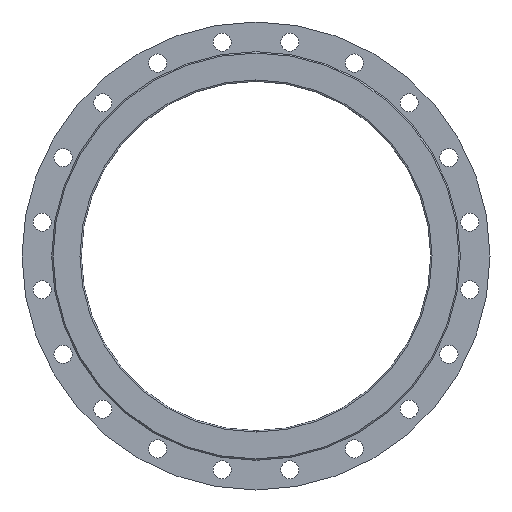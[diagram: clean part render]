
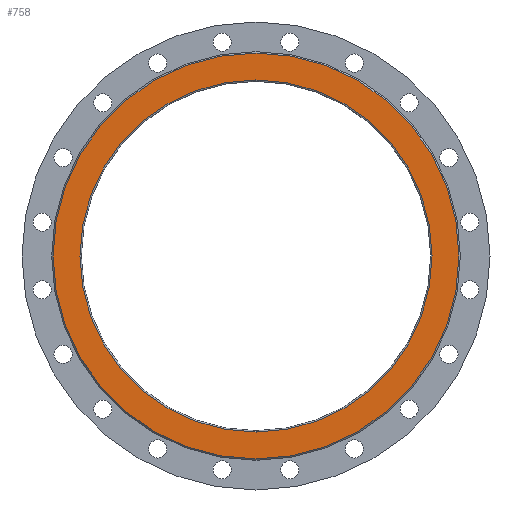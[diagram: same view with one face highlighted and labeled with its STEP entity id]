
A CAD part, left-side view. The second image highlights one B-rep face of the part: STEP entity #758.
In plain terms, the highlighted planar face has unit normal (-1, 0, 0).
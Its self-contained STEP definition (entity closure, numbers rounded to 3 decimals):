
#758 = ADVANCED_FACE ( 'NONE', ( #2093, #2061 ), #1949, .F. ) ;
#760 = EDGE_LOOP ( 'NONE', ( #764, #761 ) ) ;
#761 = ORIENTED_EDGE ( 'NONE', *, *, #1329, .T. ) ;
#764 = ORIENTED_EDGE ( 'NONE', *, *, #790, .T. ) ;
#769 = ORIENTED_EDGE ( 'NONE', *, *, #900, .T. ) ;
#777 = EDGE_LOOP ( 'NONE', ( #800, #769 ) ) ;
#790 = EDGE_CURVE ( 'NONE', #1428, #1459, #2079, .T. ) ;
#800 = ORIENTED_EDGE ( 'NONE', *, *, #1452, .T. ) ;
#900 = EDGE_CURVE ( 'NONE', #1243, #1385, #2240, .T. ) ;
#1243 = VERTEX_POINT ( 'NONE', #2732 ) ;
#1329 = EDGE_CURVE ( 'NONE', #1459, #1428, #2811, .T. ) ;
#1385 = VERTEX_POINT ( 'NONE', #2967 ) ;
#1428 = VERTEX_POINT ( 'NONE', #3078 ) ;
#1452 = EDGE_CURVE ( 'NONE', #1385, #1243, #3118, .T. ) ;
#1459 = VERTEX_POINT ( 'NONE', #3095 ) ;
#1949 = PLANE ( 'NONE',  #2062 ) ;
#2051 = DIRECTION ( 'NONE',  ( 0., 0., -1. ) ) ;
#2052 = DIRECTION ( 'NONE',  ( 1., 0., 0. ) ) ;
#2055 = CARTESIAN_POINT ( 'NONE',  ( -100., 292.5, 0. ) ) ;
#2061 = FACE_BOUND ( 'NONE', #777, .T. ) ;
#2062 = AXIS2_PLACEMENT_3D ( 'NONE', #2055, #2052, #2051 ) ;
#2076 = DIRECTION ( 'NONE',  ( 0., 0., -1. ) ) ;
#2077 = DIRECTION ( 'NONE',  ( -1., 0., 0. ) ) ;
#2078 = CARTESIAN_POINT ( 'NONE',  ( -100., 0., 0. ) ) ;
#2079 = CIRCLE ( 'NONE', #2098, 290.5 ) ;
#2093 = FACE_OUTER_BOUND ( 'NONE', #760, .T. ) ;
#2098 = AXIS2_PLACEMENT_3D ( 'NONE', #2078, #2077, #2076 ) ;
#2237 = DIRECTION ( 'NONE',  ( 0., 0., -1. ) ) ;
#2238 = DIRECTION ( 'NONE',  ( 1., 0., 0. ) ) ;
#2239 = CARTESIAN_POINT ( 'NONE',  ( -100., 0., 0. ) ) ;
#2240 = CIRCLE ( 'NONE', #2304, 252. ) ;
#2304 = AXIS2_PLACEMENT_3D ( 'NONE', #2239, #2238, #2237 ) ;
#2732 = CARTESIAN_POINT ( 'NONE',  ( -100., 0., 252. ) ) ;
#2807 = DIRECTION ( 'NONE',  ( 0., 0., -1. ) ) ;
#2808 = DIRECTION ( 'NONE',  ( -1., 0., 0. ) ) ;
#2809 = CARTESIAN_POINT ( 'NONE',  ( -100., 0., 0. ) ) ;
#2810 = AXIS2_PLACEMENT_3D ( 'NONE', #2809, #2808, #2807 ) ;
#2811 = CIRCLE ( 'NONE', #2810, 290.5 ) ;
#2967 = CARTESIAN_POINT ( 'NONE',  ( -100., 0., -252. ) ) ;
#3078 = CARTESIAN_POINT ( 'NONE',  ( -100., 0., -290.5 ) ) ;
#3095 = CARTESIAN_POINT ( 'NONE',  ( -100., 0., 290.5 ) ) ;
#3111 = DIRECTION ( 'NONE',  ( 0., 0., -1. ) ) ;
#3113 = DIRECTION ( 'NONE',  ( 1., 0., 0. ) ) ;
#3114 = CARTESIAN_POINT ( 'NONE',  ( -100., 0., 0. ) ) ;
#3118 = CIRCLE ( 'NONE', #3119, 252. ) ;
#3119 = AXIS2_PLACEMENT_3D ( 'NONE', #3114, #3113, #3111 ) ;
